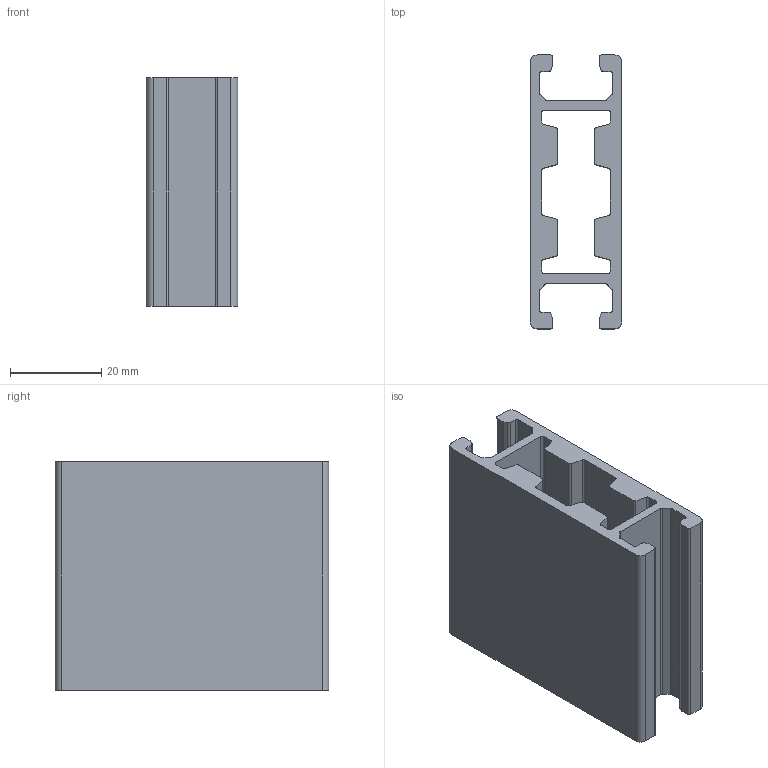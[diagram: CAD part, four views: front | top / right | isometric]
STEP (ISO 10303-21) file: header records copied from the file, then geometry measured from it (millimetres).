
FILE_DESCRIPTION(('STEP AP214'),'1');
FILE_NAME('F26M-.stp','2017-07-14T07:29:18',(' '),(' '),'Spatial InterOp 3D',' ',' ');
FILE_SCHEMA(('automotive_design'));
Length unit declared in the file: millimetre
Products named in the file (1): F26M-
Bounding box: 20 x 60 x 50 mm (x, y, z)
Volume: 25363.4 mm3; surface area: 17660.6 mm2
Topology: 1 solids, 1 shells, 98 faces, 288 edges, 192 vertices
Faces by surface type: plane 50, cylinder 48
Entity records: 4092 total; most frequent: DIRECTION 582, CARTESIAN_POINT 579, ORIENTED_EDGE 576, EDGE_CURVE 288, AXIS2_PLACEMENT_3D 195, VERTEX_POINT 192, LINE 192, VECTOR 192
